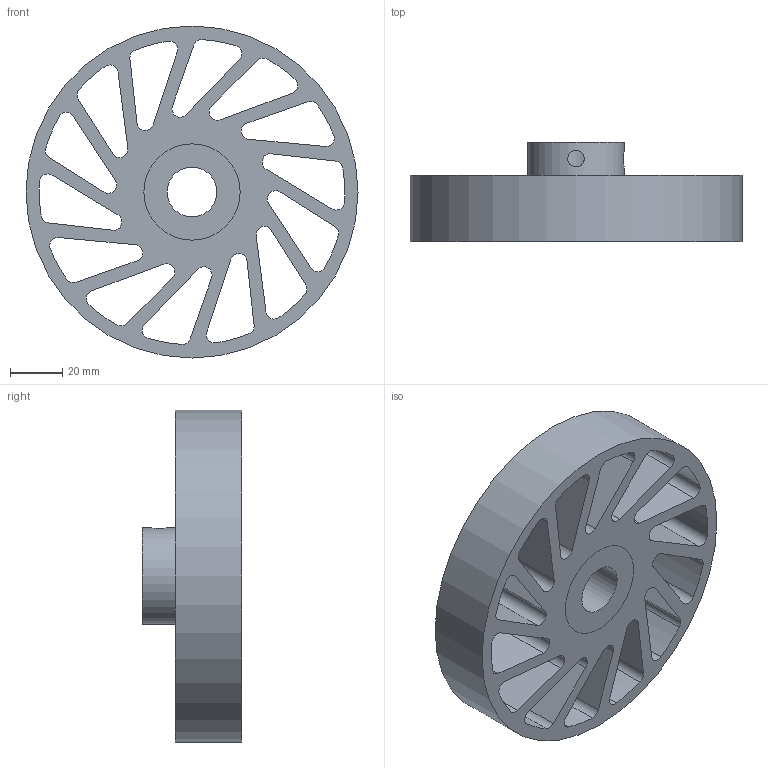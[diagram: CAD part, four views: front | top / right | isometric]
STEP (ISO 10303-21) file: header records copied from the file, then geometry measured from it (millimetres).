
FILE_DESCRIPTION(/* description */ (''),/* implementation_level */ '2;1');
FILE_NAME(/* name */ 'NCW-470-XXX-YYY.stp',/* time_stamp */ '2023-02-02T15:21:35-06:00',/* author */ ('AG'),/* organization */ ('Meridian Laboratory'),/* preprocessor_version */ 'ST-DEVELOPER v18.1',/* originating_system */ 'Autodesk Inventor 2022',/* authorisation */ '');
FILE_SCHEMA (('AUTOMOTIVE_DESIGN { 1 0 10303 214 3 1 1 }'));
Length unit declared in the file: inch
Products named in the file (1): NCW-440
Bounding box: 127 x 38.1 x 127 mm (x, y, z)
Volume: 182492.4 mm3; surface area: 64382.1 mm2
Topology: 2 solids, 2 shells, 94 faces, 276 edges, 186 vertices
Faces by surface type: cylinder 62, plane 32
Full cylindrical faces by diameter (mm): 6.35 x2, 19.075 x1, 36.83 x2, 127 x1
Entity records: 3530 total; most frequent: CARTESIAN_POINT 697, DIRECTION 576, ORIENTED_EDGE 552, EDGE_CURVE 276, AXIS2_PLACEMENT_3D 215, VERTEX_POINT 186, LINE 146, VECTOR 146
